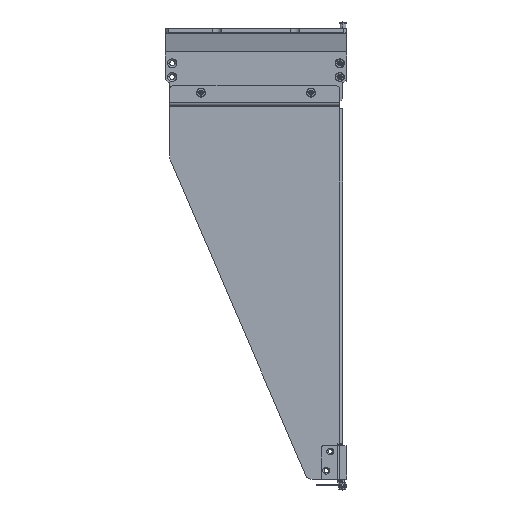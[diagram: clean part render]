
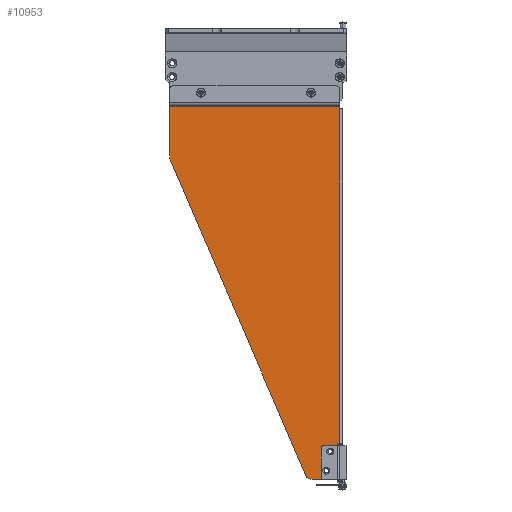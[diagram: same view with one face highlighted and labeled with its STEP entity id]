
A CAD part, left-side view. The second image highlights one B-rep face of the part: STEP entity #10953.
In plain terms, the highlighted planar face has unit normal (-1, 0, 0).
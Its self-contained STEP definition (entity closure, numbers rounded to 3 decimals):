
#10107=DIRECTION('',(0.,0.,1.));
#10108=VECTOR('',#10107,243.6);
#10109=CARTESIAN_POINT('',(-217.,-60.8,-302.));
#10110=LINE('',#10109,#10108);
#10111=DIRECTION('',(0.,1.,0.));
#10112=VECTOR('',#10111,1.3);
#10113=CARTESIAN_POINT('',(-217.,-60.8,-302.));
#10114=LINE('',#10113,#10112);
#10115=CARTESIAN_POINT('',(-217.,-40.793,-323.));
#10116=DIRECTION('',(1.,0.,0.));
#10117=DIRECTION('',(0.,0.,-1.));
#10118=AXIS2_PLACEMENT_3D('',#10115,#10116,#10117);
#10120=DIRECTION('',(0.,0.395,0.919));
#10121=VECTOR('',#10120,249.134);
#10122=CARTESIAN_POINT('',(-217.,-36.2,-324.975));
#10123=LINE('',#10122,#10121);
#10124=CARTESIAN_POINT('',(-217.,53.,-92.142));
#10125=DIRECTION('',(1.,0.,0.));
#10126=DIRECTION('',(0.,0.919,-0.395));
#10127=AXIS2_PLACEMENT_3D('',#10124,#10125,#10126);
#10129=DIRECTION('',(0.,0.,1.));
#10130=VECTOR('',#10129,35.742);
#10131=CARTESIAN_POINT('',(-217.,63.,-92.142));
#10132=LINE('',#10131,#10130);
#10133=DIRECTION('',(0.,0.,-1.));
#10134=VECTOR('',#10133,2.);
#10135=CARTESIAN_POINT('',(-217.,-61.,-56.4));
#10136=LINE('',#10135,#10134);
#10137=DIRECTION('',(0.,1.,0.));
#10138=VECTOR('',#10137,0.2);
#10139=CARTESIAN_POINT('',(-217.,-61.,-58.4));
#10140=LINE('',#10139,#10138);
#10141=CARTESIAN_POINT('',(-217.,-54.1,-307.7));
#10142=DIRECTION('',(-1.,0.,0.));
#10143=DIRECTION('',(0.,0.,-1.));
#10144=AXIS2_PLACEMENT_3D('',#10141,#10142,#10143);
#10146=CARTESIAN_POINT('',(-217.,-54.1,-307.7));
#10147=DIRECTION('',(-1.,0.,0.));
#10148=DIRECTION('',(0.,0.,1.));
#10149=AXIS2_PLACEMENT_3D('',#10146,#10147,#10148);
#10151=CARTESIAN_POINT('',(-217.,-51.1,-321.7));
#10152=DIRECTION('',(-1.,0.,0.));
#10153=DIRECTION('',(0.,0.,-1.));
#10154=AXIS2_PLACEMENT_3D('',#10151,#10152,#10153);
#10156=CARTESIAN_POINT('',(-217.,-51.1,-321.7));
#10157=DIRECTION('',(-1.,0.,0.));
#10158=DIRECTION('',(0.,0.,1.));
#10159=AXIS2_PLACEMENT_3D('',#10156,#10157,#10158);
#10161=DIRECTION('',(0.,0.,1.));
#10162=VECTOR('',#10161,26.);
#10163=CARTESIAN_POINT('',(-217.,-59.5,-328.));
#10164=LINE('',#10163,#10162);
#10169=DIRECTION('',(0.,-1.,0.));
#10170=VECTOR('',#10169,18.707);
#10171=CARTESIAN_POINT('',(-217.,-40.793,-328.));
#10172=LINE('',#10171,#10170);
#10395=DIRECTION('',(0.,1.,0.));
#10396=VECTOR('',#10395,124.);
#10397=CARTESIAN_POINT('',(-217.,-61.,-56.4));
#10398=LINE('',#10397,#10396);
#10628=CARTESIAN_POINT('',(-217.,-60.8,-302.));
#10629=VERTEX_POINT('',#10628);
#10630=CARTESIAN_POINT('',(-217.,-60.8,-58.4));
#10631=VERTEX_POINT('',#10630);
#10634=CARTESIAN_POINT('',(-217.,-59.5,-302.));
#10635=VERTEX_POINT('',#10634);
#10636=CARTESIAN_POINT('',(-217.,-59.5,-328.));
#10637=VERTEX_POINT('',#10636);
#10638=CARTESIAN_POINT('',(-217.,-40.793,-328.));
#10639=VERTEX_POINT('',#10638);
#10640=CARTESIAN_POINT('',(-217.,-36.2,-324.975));
#10641=VERTEX_POINT('',#10640);
#10642=CARTESIAN_POINT('',(-217.,62.187,-96.091));
#10643=VERTEX_POINT('',#10642);
#10644=CARTESIAN_POINT('',(-217.,63.,-92.142));
#10645=VERTEX_POINT('',#10644);
#10646=CARTESIAN_POINT('',(-217.,63.,-56.4));
#10647=VERTEX_POINT('',#10646);
#10648=CARTESIAN_POINT('',(-217.,-61.,-56.4));
#10649=VERTEX_POINT('',#10648);
#10650=CARTESIAN_POINT('',(-217.,-61.,-58.4));
#10651=VERTEX_POINT('',#10650);
#10652=CARTESIAN_POINT('',(-217.,-54.1,-309.2));
#10653=CARTESIAN_POINT('',(-217.,-54.1,-306.2));
#10654=VERTEX_POINT('',#10652);
#10655=VERTEX_POINT('',#10653);
#10656=CARTESIAN_POINT('',(-217.,-51.1,-323.2));
#10657=CARTESIAN_POINT('',(-217.,-51.1,-320.2));
#10658=VERTEX_POINT('',#10656);
#10659=VERTEX_POINT('',#10657);
#10913=CARTESIAN_POINT('',(-217.,0.,0.));
#10914=DIRECTION('',(1.,0.,0.));
#10915=DIRECTION('',(0.,0.,-1.));
#10916=AXIS2_PLACEMENT_3D('',#10913,#10914,#10915);
#10917=PLANE('',#10916);
#10919=ORIENTED_EDGE('',*,*,#10918,.T.);
#10921=ORIENTED_EDGE('',*,*,#10920,.F.);
#10923=ORIENTED_EDGE('',*,*,#10922,.F.);
#10925=ORIENTED_EDGE('',*,*,#10924,.T.);
#10927=ORIENTED_EDGE('',*,*,#10926,.T.);
#10929=ORIENTED_EDGE('',*,*,#10928,.T.);
#10931=ORIENTED_EDGE('',*,*,#10930,.T.);
#10933=ORIENTED_EDGE('',*,*,#10932,.F.);
#10935=ORIENTED_EDGE('',*,*,#10934,.T.);
#10937=ORIENTED_EDGE('',*,*,#10936,.T.);
#10938=ORIENTED_EDGE('',*,*,#10904,.F.);
#10939=EDGE_LOOP('',(#10919,#10921,#10923,#10925,#10927,#10929,#10931,#10933,
#10935,#10937,#10938));
#10940=FACE_OUTER_BOUND('',#10939,.F.);
#10942=ORIENTED_EDGE('',*,*,#10941,.T.);
#10944=ORIENTED_EDGE('',*,*,#10943,.T.);
#10945=EDGE_LOOP('',(#10942,#10944));
#10946=FACE_BOUND('',#10945,.F.);
#10948=ORIENTED_EDGE('',*,*,#10947,.T.);
#10950=ORIENTED_EDGE('',*,*,#10949,.T.);
#10951=EDGE_LOOP('',(#10948,#10950));
#10952=FACE_BOUND('',#10951,.F.);
#10953=ADVANCED_FACE('',(#10940,#10946,#10952),#10917,.F.);
#10119=CIRCLE('',#10118,5.);
#10128=CIRCLE('',#10127,10.);
#10145=CIRCLE('',#10144,1.5);
#10150=CIRCLE('',#10149,1.5);
#10155=CIRCLE('',#10154,1.5);
#10160=CIRCLE('',#10159,1.5);
#10904=EDGE_CURVE('',#10629,#10631,#10110,.T.);
#10918=EDGE_CURVE('',#10629,#10635,#10114,.T.);
#10920=EDGE_CURVE('',#10637,#10635,#10164,.T.);
#10922=EDGE_CURVE('',#10639,#10637,#10172,.T.);
#10924=EDGE_CURVE('',#10639,#10641,#10119,.T.);
#10926=EDGE_CURVE('',#10641,#10643,#10123,.T.);
#10928=EDGE_CURVE('',#10643,#10645,#10128,.T.);
#10930=EDGE_CURVE('',#10645,#10647,#10132,.T.);
#10932=EDGE_CURVE('',#10649,#10647,#10398,.T.);
#10934=EDGE_CURVE('',#10649,#10651,#10136,.T.);
#10936=EDGE_CURVE('',#10651,#10631,#10140,.T.);
#10941=EDGE_CURVE('',#10654,#10655,#10145,.T.);
#10943=EDGE_CURVE('',#10655,#10654,#10150,.T.);
#10947=EDGE_CURVE('',#10658,#10659,#10155,.T.);
#10949=EDGE_CURVE('',#10659,#10658,#10160,.T.);
